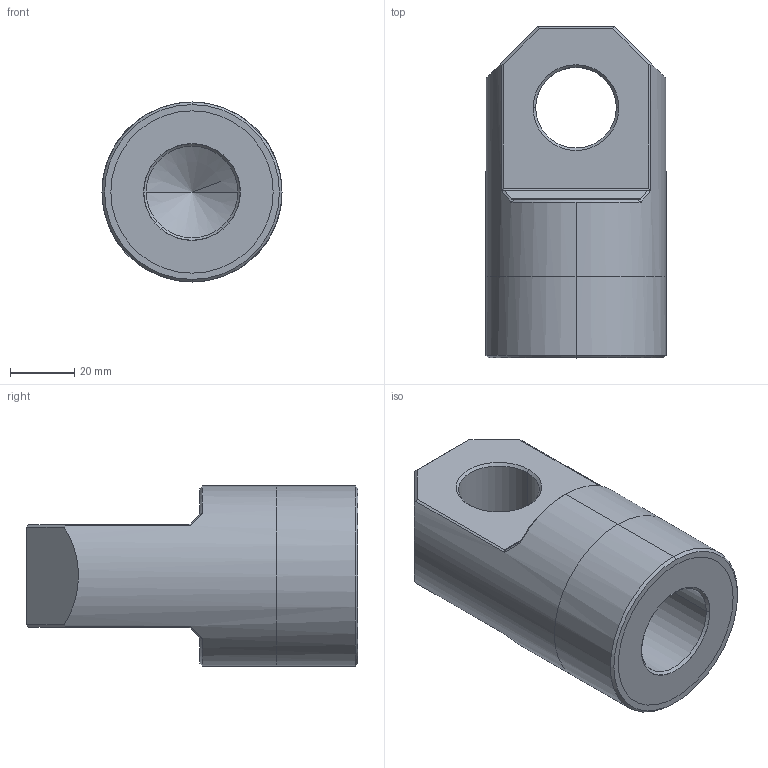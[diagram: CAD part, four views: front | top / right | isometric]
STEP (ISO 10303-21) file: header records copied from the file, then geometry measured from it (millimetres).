
FILE_DESCRIPTION((''),'2;1');
FILE_NAME('BSS5914D','2016-12-13T',('mike.ward'),(''),'CREO PARAMETRIC BY PTC INC, 2015290','CREO PARAMETRIC BY PTC INC, 2015290','');
FILE_SCHEMA(('CONFIG_CONTROL_DESIGN'));
Length unit declared in the file: millimetre
Products named in the file (1): BSS5914D
Bounding box: 56 x 103.2 x 56 mm (x, y, z)
Volume: 163515.5 mm3; surface area: 33316.5 mm2
Topology: 1 solids, 3 shells, 62 faces, 152 edges, 85 vertices
Faces by surface type: plane 28, cone 12, bspline 12, cylinder 10
Entity records: 1964 total; most frequent: CARTESIAN_POINT 587, ORIENTED_EDGE 276, DIRECTION 254, EDGE_CURVE 142, AXIS2_PLACEMENT_3D 87, VERTEX_POINT 85, VECTOR 80, LINE 80
